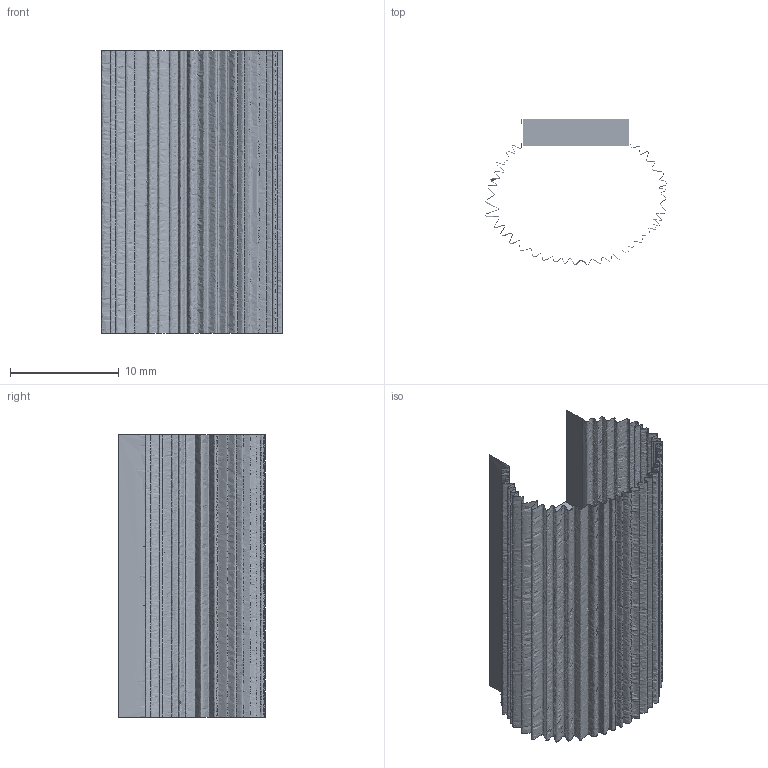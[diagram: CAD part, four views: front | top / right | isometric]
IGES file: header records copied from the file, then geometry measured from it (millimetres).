
Global section: file name: D:\3_IDENTIDAD CORPORATIVA\19 - ARCHIVOS DWG - IGS - DXF\_GEA\GE06_3D.igs; native system: Rhinoceros ( Apr  1 2010 ); preprocessor: Trout Lake IGES 012 Apr  1 2010; date: 120515.113201; units: millimetre
Bounding box: 16.67 x 13.47 x 26 mm (x, y, z)
Surface area: 1967.6 mm2 (no closed solid volume)
Topology: 0 solids, 0 shells, 8 faces, 32 edges, 32 vertices
Faces by surface type: bspline 8
